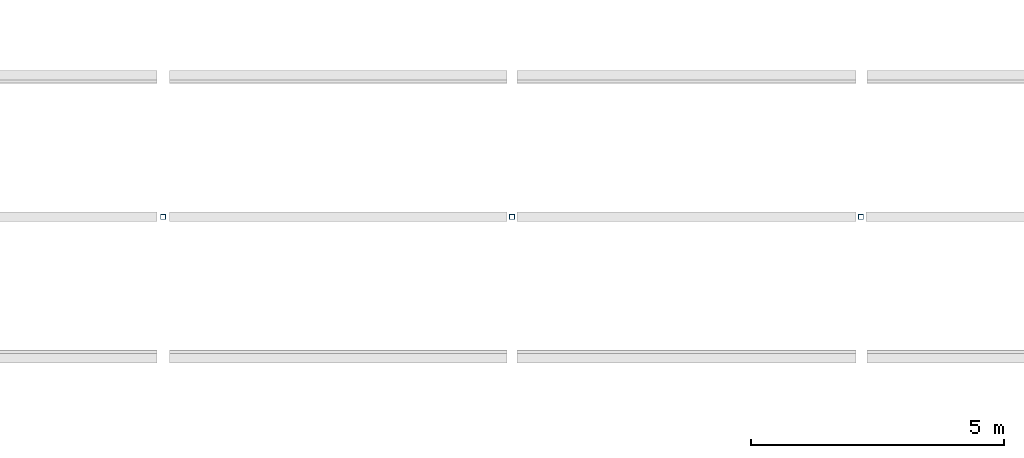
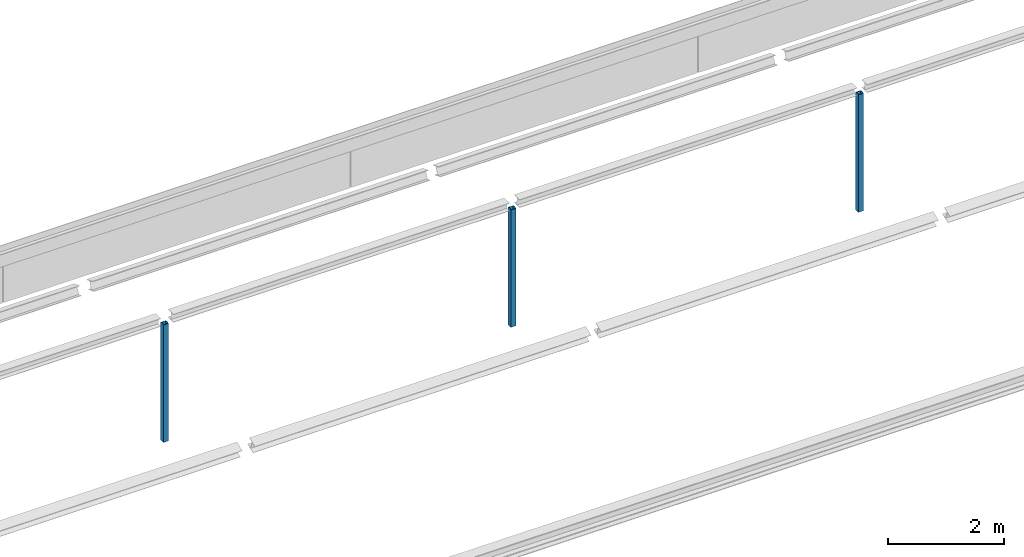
# One storey, part 8 of 10: 3 columns.
"""IFC2X3 building model written with IfcOpenShell, lengths in millimetres."""

from ifc_helpers import new_model, entity, si_unit, converted_unit, derived_unit, direction, frame, origin, place, context, subcontext, project, spatial, faceted_brep, source, transform, mapped, material, type_object, type_shapes, element, save


model = new_model("IFC2X3")

# Units and contexts
model_context = context("Model", 3, precision=0.01, world=origin(), true_north=direction((6.123031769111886e-17, 1.0)))
body_context = subcontext(model_context, "Body", "Model", "MODEL_VIEW")
ifc_project = project(units=[si_unit("LENGTHUNIT", "METRE", prefix="MILLI"), si_unit("AREAUNIT", "SQUARE_METRE", prefix="MILLI"), si_unit("VOLUMEUNIT", "CUBIC_METRE"), converted_unit("PLANEANGLEUNIT", "DEGREE", entity("IfcPlaneAngleMeasure", 0.017453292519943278), si_unit("PLANEANGLEUNIT", "RADIAN"), dimensions=[0, 0, 0, 0, 0, 0, 0]), si_unit("MASSUNIT", "GRAM", prefix="KILO"), derived_unit("MASSDENSITYUNIT", [(si_unit("MASSUNIT", "GRAM", prefix="KILO"), 1), (si_unit("LENGTHUNIT", "METRE"), -3)]), derived_unit("IONCONCENTRATIONUNIT", [(si_unit("MASSUNIT", "GRAM", prefix="KILO"), 1), (si_unit("LENGTHUNIT", "METRE"), -3)]), derived_unit("MOMENTOFINERTIAUNIT", [(si_unit("LENGTHUNIT", "METRE"), 4)]), si_unit("TIMEUNIT", "SECOND"), si_unit("FREQUENCYUNIT", "HERTZ"), si_unit("THERMODYNAMICTEMPERATUREUNIT", "DEGREE_CELSIUS"), derived_unit("THERMALTRANSMITTANCEUNIT", [(si_unit("MASSUNIT", "GRAM", prefix="KILO"), 1), (si_unit("THERMODYNAMICTEMPERATUREUNIT", "KELVIN"), -1), (si_unit("TIMEUNIT", "SECOND"), -3)]), derived_unit("THERMALCONDUCTANCEUNIT", [(si_unit("MASSUNIT", "GRAM", prefix="KILO"), 1), (si_unit("THERMODYNAMICTEMPERATUREUNIT", "KELVIN"), -1), (si_unit("TIMEUNIT", "SECOND"), -3), (si_unit("LENGTHUNIT", "METRE"), 1)]), derived_unit("VOLUMETRICFLOWRATEUNIT", [(si_unit("LENGTHUNIT", "METRE", prefix="DECI"), 3), (si_unit("TIMEUNIT", "SECOND"), -1)]), derived_unit("MASSFLOWRATEUNIT", [(si_unit("MASSUNIT", "GRAM", prefix="KILO"), 1), (si_unit("TIMEUNIT", "SECOND"), -1)]), derived_unit("ROTATIONALFREQUENCYUNIT", [(si_unit("TIMEUNIT", "SECOND"), -1)]), si_unit("ELECTRICCURRENTUNIT", "AMPERE"), si_unit("ELECTRICVOLTAGEUNIT", "VOLT"), si_unit("POWERUNIT", "WATT"), si_unit("FORCEUNIT", "NEWTON", prefix="KILO"), si_unit("ILLUMINANCEUNIT", "LUX"), si_unit("LUMINOUSFLUXUNIT", "LUMEN"), si_unit("LUMINOUSINTENSITYUNIT", "CANDELA"), si_unit("ENERGYUNIT", "JOULE"), derived_unit("USERDEFINED", [(si_unit("MASSUNIT", "GRAM", prefix="KILO"), -1), (si_unit("LENGTHUNIT", "METRE"), -2), (si_unit("TIMEUNIT", "SECOND"), 3), (si_unit("LUMINOUSFLUXUNIT", "LUMEN"), 1)]), derived_unit("USERDEFINED", [(si_unit("MASSUNIT", "GRAM", prefix="KILO"), 1), (si_unit("TIMEUNIT", "SECOND"), -3), (si_unit("LENGTHUNIT", "METRE"), 3), (si_unit("ELECTRICCURRENTUNIT", "AMPERE"), -2)]), derived_unit("SOUNDPOWERUNIT", [(si_unit("MASSUNIT", "GRAM", prefix="KILO"), 1), (si_unit("TIMEUNIT", "SECOND"), -3), (si_unit("LENGTHUNIT", "METRE"), 2)]), derived_unit("SOUNDPRESSUREUNIT", [(si_unit("MASSUNIT", "GRAM", prefix="KILO"), 1), (si_unit("LENGTHUNIT", "METRE"), -1), (si_unit("TIMEUNIT", "SECOND"), -2)]), derived_unit("LINEARVELOCITYUNIT", [(si_unit("LENGTHUNIT", "METRE"), 1), (si_unit("TIMEUNIT", "SECOND"), -1)]), si_unit("PRESSUREUNIT", "PASCAL"), derived_unit("USERDEFINED", [(si_unit("MASSUNIT", "GRAM", prefix="KILO"), 1), (si_unit("LENGTHUNIT", "METRE"), -2), (si_unit("TIMEUNIT", "SECOND"), -2)]), derived_unit("LINEARFORCEUNIT", [(si_unit("MASSUNIT", "GRAM", prefix="KILO"), 1), (si_unit("TIMEUNIT", "SECOND"), -2)]), derived_unit("PLANARFORCEUNIT", [(si_unit("MASSUNIT", "GRAM", prefix="KILO"), 1), (si_unit("LENGTHUNIT", "METRE"), -1), (si_unit("TIMEUNIT", "SECOND"), -2)]), derived_unit("SPECIFICHEATCAPACITYUNIT", [(si_unit("THERMODYNAMICTEMPERATUREUNIT", "KELVIN"), -1), (si_unit("LENGTHUNIT", "METRE"), 2), (si_unit("TIMEUNIT", "SECOND"), -2)]), derived_unit("HEATFLUXDENSITYUNIT", [(si_unit("MASSUNIT", "GRAM", prefix="KILO"), 1), (si_unit("TIMEUNIT", "SECOND"), -3)]), derived_unit("HEATINGVALUEUNIT", [(si_unit("LENGTHUNIT", "METRE"), 2), (si_unit("TIMEUNIT", "SECOND"), -2)]), derived_unit("VAPORPERMEABILITYUNIT", [(si_unit("LENGTHUNIT", "METRE"), -1), (si_unit("TIMEUNIT", "SECOND"), 1)]), derived_unit("DYNAMICVISCOSITYUNIT", [(si_unit("MASSUNIT", "GRAM", prefix="KILO"), 1), (si_unit("TIMEUNIT", "SECOND"), -1), (si_unit("LENGTHUNIT", "METRE"), -1)]), derived_unit("THERMALEXPANSIONCOEFFICIENTUNIT", [(si_unit("THERMODYNAMICTEMPERATUREUNIT", "KELVIN"), -1)]), derived_unit("MODULUSOFELASTICITYUNIT", [(si_unit("MASSUNIT", "GRAM", prefix="KILO"), 1), (si_unit("LENGTHUNIT", "METRE"), -1), (si_unit("TIMEUNIT", "SECOND"), -2)]), derived_unit("ISOTHERMALMOISTURECAPACITYUNIT", [(si_unit("MASSUNIT", "GRAM", prefix="KILO"), -1), (si_unit("LENGTHUNIT", "METRE"), 3)]), derived_unit("MOISTUREDIFFUSIVITYUNIT", [(si_unit("TIMEUNIT", "SECOND"), -1), (si_unit("LENGTHUNIT", "METRE"), 2)]), derived_unit("MASSPERLENGTHUNIT", [(si_unit("MASSUNIT", "GRAM", prefix="KILO"), 1), (si_unit("LENGTHUNIT", "METRE"), -1)]), derived_unit("THERMALRESISTANCEUNIT", [(si_unit("MASSUNIT", "GRAM", prefix="KILO"), -1), (si_unit("TIMEUNIT", "SECOND"), 3), (si_unit("THERMODYNAMICTEMPERATUREUNIT", "KELVIN"), 1)]), derived_unit("ACCELERATIONUNIT", [(si_unit("LENGTHUNIT", "METRE"), 1), (si_unit("TIMEUNIT", "SECOND"), -2)]), derived_unit("ANGULARVELOCITYUNIT", [(si_unit("TIMEUNIT", "SECOND"), -1), (si_unit("PLANEANGLEUNIT", "RADIAN"), 1)]), derived_unit("LINEARSTIFFNESSUNIT", [(si_unit("MASSUNIT", "GRAM", prefix="KILO"), 1), (si_unit("TIMEUNIT", "SECOND"), -2)]), derived_unit("WARPINGCONSTANTUNIT", [(si_unit("LENGTHUNIT", "METRE"), 6)]), derived_unit("LINEARMOMENTUNIT", [(si_unit("MASSUNIT", "GRAM", prefix="KILO"), 1), (si_unit("LENGTHUNIT", "METRE"), 1), (si_unit("TIMEUNIT", "SECOND"), -2)]), derived_unit("TORQUEUNIT", [(si_unit("MASSUNIT", "GRAM", prefix="KILO"), 1), (si_unit("LENGTHUNIT", "METRE"), 2), (si_unit("TIMEUNIT", "SECOND"), -2)])], contexts=[model_context])

# Site, building, storey
site_placement = place(None, origin())
site = spatial("IfcSite", under=ifc_project, at=site_placement, Name="Default", CompositionType="ELEMENT")
building_placement = place(site_placement, origin())
building = spatial("IfcBuilding", under=site, at=building_placement, CompositionType="ELEMENT")
storey_placement = place(building_placement, frame((0.0, 0.0, 11700.0)))
storey = spatial("IfcBuildingStorey", under=building, at=storey_placement, Name="V4 BK metselwerk", CompositionType="ELEMENT", Elevation=11699.999999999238)

# Columns
ifc_material = material(Name="Metal - Steel - S275 J0H (standaard-kokers/buizen)")
column_type_1 = type_object("IfcColumnType", Name="btk_staal - Koker:K100x100x5.0", PredefinedType="COLUMN", material=ifc_material)
shared_shape_1 = source(origin(), body_context, "Body", "Brep", [
    faceted_brep([(6775.000781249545, 37544.385705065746, 10790.0), (6875.000781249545, 37544.38570506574, 10790.0), (6875.000781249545, 37544.38570506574, 13255.664934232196), (6775.000781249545, 37544.38570506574, 13255.664934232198), (6775.000781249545, 37644.385705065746, 10790.0), (6775.000781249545, 37594.35138360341, 13274.814563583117), (6775.000781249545, 37644.385705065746, 13255.640145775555), (6875.000781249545, 37644.385705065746, 10790.0), (6875.000781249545, 37644.385705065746, 13255.640145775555), (6780.000781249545, 37549.385705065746, 10790.0), (6780.000781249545, 37639.38570506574, 10790.0), (6780.000781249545, 37639.38570506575, 13257.556272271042), (6780.000781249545, 37594.351383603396, 13274.81456358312), (6780.000781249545, 37549.385705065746, 13257.581212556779), (6870.000781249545, 37549.385705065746, 10790.0), (6870.000781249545, 37549.385705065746, 13257.581212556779), (6870.000781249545, 37639.385705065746, 10790.0), (6870.000781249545, 37594.35138360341, 13274.814563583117), (6870.000781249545, 37639.38570506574, 13257.556272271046), (6875.000781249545, 37594.351383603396, 13274.81456358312)], [[[0, 1, 2, 3]], [[4, 0, 3, 5, 6]], [[7, 4, 6, 8]], [[9, 10, 11, 12, 13]], [[14, 9, 13, 15]], [[16, 14, 15, 17, 18]], [[7, 1, 0, 4], [16, 10, 9, 14]], [[1, 7, 8, 19, 2]], [[10, 16, 18, 11]], [[12, 5, 3, 2, 19, 17, 15, 13]], [[5, 12, 11, 18, 17, 19, 8, 6]]]),
])
type_shapes(column_type_1, [shared_shape_1])
column_1_placement = place(storey_placement, frame((0.0, 0.0, -11700.0)))
element("IfcColumn", 1, at=column_1_placement, inside=storey, type_object=column_type_1, material=ifc_material, Name="btk_staal - Koker:K100x100x5.0", ObjectType="btk_staal - Koker:K100x100x5.0", context=body_context, shape_type="MappedRepresentation", body=[
    mapped(shared_shape_1, transform((0.0, 0.0, 0.0), scale=1.0)),
])
column_type_2 = type_object("IfcColumnType", Name="btk_staal - Koker:K100x100x5.0", PredefinedType="COLUMN", material=ifc_material)
shared_shape_2 = source(origin(), body_context, "Body", "Brep", [
    faceted_brep([(13675.000781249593, 37544.38570506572, 10790.0), (13775.000781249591, 37544.38570506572, 10790.0), (13775.000781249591, 37544.38570506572, 13255.664934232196), (13675.000781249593, 37544.38570506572, 13255.664934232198), (13675.000781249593, 37644.38570506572, 10790.0), (13675.000781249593, 37594.35138360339, 13274.814563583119), (13675.000781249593, 37644.38570506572, 13255.640145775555), (13775.000781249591, 37644.38570506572, 10790.0), (13775.000781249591, 37644.38570506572, 13255.640145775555), (13680.000781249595, 37549.38570506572, 10790.0), (13680.000781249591, 37639.38570506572, 10790.0), (13680.000781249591, 37639.38570506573, 13257.556272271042), (13680.000781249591, 37594.35138360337, 13274.814563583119), (13680.000781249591, 37549.38570506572, 13257.581212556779), (13770.000781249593, 37549.38570506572, 10790.0), (13770.000781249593, 37549.38570506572, 13257.581212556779), (13770.000781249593, 37639.38570506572, 10790.0), (13770.000781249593, 37594.35138360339, 13274.814563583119), (13770.000781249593, 37639.38570506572, 13257.556272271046), (13775.000781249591, 37594.35138360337, 13274.814563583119)], [[[0, 1, 2, 3]], [[4, 0, 3, 5, 6]], [[7, 4, 6, 8]], [[9, 10, 11, 12, 13]], [[14, 9, 13, 15]], [[16, 14, 15, 17, 18]], [[7, 1, 0, 4], [16, 10, 9, 14]], [[1, 7, 8, 19, 2]], [[10, 16, 18, 11]], [[12, 5, 3, 2, 19, 17, 15, 13]], [[5, 12, 11, 18, 17, 19, 8, 6]]]),
])
type_shapes(column_type_2, [shared_shape_2])
column_2_placement = place(storey_placement, frame((0.0, 0.0, -11700.0)))
element("IfcColumn", 2, at=column_2_placement, inside=storey, type_object=column_type_2, material=ifc_material, Name="btk_staal - Koker:K100x100x5.0", ObjectType="btk_staal - Koker:K100x100x5.0", context=body_context, shape_type="MappedRepresentation", body=[
    mapped(shared_shape_2, transform((0.0, 0.0, 0.0), scale=1.0)),
])
column_type_3 = type_object("IfcColumnType", Name="btk_staal - Koker:K100x100x5.0", PredefinedType="COLUMN", material=ifc_material)
shared_shape_3 = source(origin(), body_context, "Body", "Brep", [
    faceted_brep([(20574.98465402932, 37544.385705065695, 10790.0), (20674.984654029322, 37544.38570506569, 10790.0), (20674.98465402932, 37544.38570506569, 13255.664934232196), (20574.98465402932, 37544.38570506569, 13255.664934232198), (20574.98465402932, 37644.38570506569, 10790.0), (20574.98465402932, 37594.35138360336, 13274.814563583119), (20574.98465402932, 37644.38570506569, 13255.640145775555), (20674.98465402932, 37644.38570506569, 10790.0), (20674.984654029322, 37644.38570506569, 13255.640145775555), (20579.98465402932, 37549.38570506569, 10790.0), (20579.984654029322, 37639.38570506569, 10790.0), (20579.984654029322, 37639.3857050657, 13257.556272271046), (20579.984654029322, 37594.351383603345, 13274.814563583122), (20579.984654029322, 37549.38570506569, 13257.581212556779), (20669.98465402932, 37549.38570506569, 10790.0), (20669.98465402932, 37549.38570506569, 13257.581212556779), (20669.98465402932, 37639.385705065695, 10790.0), (20669.98465402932, 37594.35138360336, 13274.814563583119), (20669.98465402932, 37639.38570506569, 13257.556272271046), (20674.984654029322, 37594.351383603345, 13274.814563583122)], [[[0, 1, 2, 3]], [[4, 0, 3, 5, 6]], [[7, 4, 6, 8]], [[9, 10, 11, 12, 13]], [[14, 9, 13, 15]], [[16, 14, 15, 17, 18]], [[7, 1, 0, 4], [16, 10, 9, 14]], [[1, 7, 8, 19, 2]], [[10, 16, 18, 11]], [[12, 5, 3, 2, 19, 17, 15, 13]], [[5, 12, 11, 18, 17, 19, 8, 6]]]),
])
type_shapes(column_type_3, [shared_shape_3])
column_3_placement = place(storey_placement, frame((0.0, 0.0, -11700.0)))
element("IfcColumn", 3, at=column_3_placement, inside=storey, type_object=column_type_3, material=ifc_material, Name="btk_staal - Koker:K100x100x5.0", ObjectType="btk_staal - Koker:K100x100x5.0", context=body_context, shape_type="MappedRepresentation", body=[
    mapped(shared_shape_3, transform((0.0, 0.0, 0.0), scale=1.0)),
])

save(model, "model.ifc")
